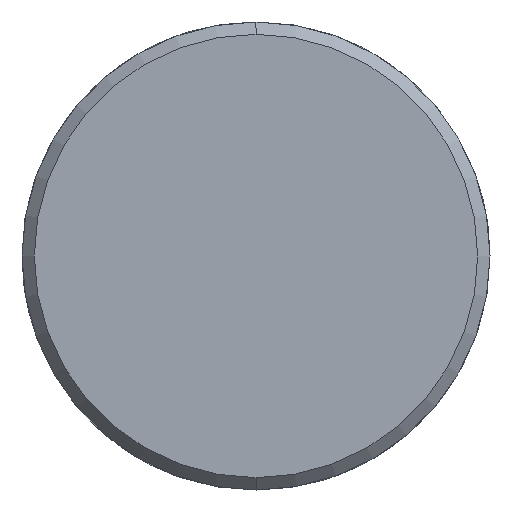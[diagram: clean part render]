
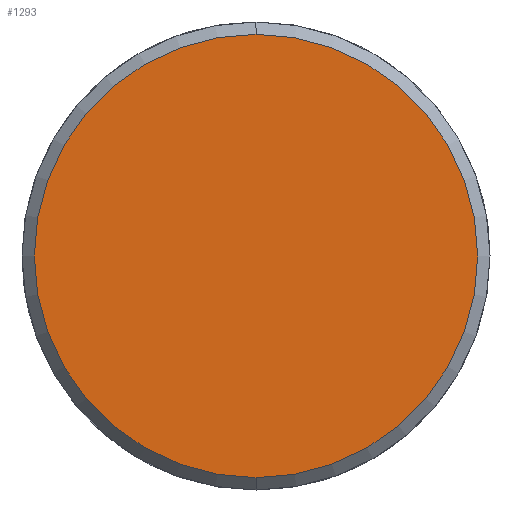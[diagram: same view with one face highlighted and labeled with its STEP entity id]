
A CAD part, left-side view. The second image highlights one B-rep face of the part: STEP entity #1293.
In plain terms, the highlighted planar face has unit normal (-1, 0, 0).
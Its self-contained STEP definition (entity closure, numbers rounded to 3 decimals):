
#1225=CARTESIAN_POINT('Vertex',(-7.,0.,-18.)) ;
#1228=CARTESIAN_POINT('Axis2P3D Location',(-7.,0.,0.)) ;
#1232=CARTESIAN_POINT('Vertex',(-7.,18.,0.)) ;
#1235=CARTESIAN_POINT('Axis2P3D Location',(-7.,0.,0.)) ;
#1239=CARTESIAN_POINT('Vertex',(-7.,0.,18.)) ;
#1261=CARTESIAN_POINT('Axis2P3D Location',(-7.,0.,0.)) ;
#1265=CARTESIAN_POINT('Vertex',(-7.,-18.,0.)) ;
#1268=CARTESIAN_POINT('Axis2P3D Location',(-7.,0.,0.)) ;
#1282=CARTESIAN_POINT('Axis2P3D Location',(-7.,0.,0.)) ;
#1229=DIRECTION('Axis2P3D Direction',(1.,0.,-0.)) ;
#1236=DIRECTION('Axis2P3D Direction',(1.,0.,-0.)) ;
#1262=DIRECTION('Axis2P3D Direction',(1.,0.,-0.)) ;
#1269=DIRECTION('Axis2P3D Direction',(1.,0.,-0.)) ;
#1283=DIRECTION('Axis2P3D Direction',(1.,0.,-0.)) ;
#1284=DIRECTION('Axis2P3D XDirection',(-0.,0.,-1.)) ;
#1230=AXIS2_PLACEMENT_3D('Circle Axis2P3D',#1228,#1229,$) ;
#1237=AXIS2_PLACEMENT_3D('Circle Axis2P3D',#1235,#1236,$) ;
#1263=AXIS2_PLACEMENT_3D('Circle Axis2P3D',#1261,#1262,$) ;
#1270=AXIS2_PLACEMENT_3D('Circle Axis2P3D',#1268,#1269,$) ;
#1285=AXIS2_PLACEMENT_3D('Plane Axis2P3D',#1282,#1283,#1284) ;
#1288=ORIENTED_EDGE('',*,*,#1234,.F.) ;
#1289=ORIENTED_EDGE('',*,*,#1272,.F.) ;
#1290=ORIENTED_EDGE('',*,*,#1267,.F.) ;
#1291=ORIENTED_EDGE('',*,*,#1241,.F.) ;
#1293=ADVANCED_FACE('351-25X76X140',(#1292),#1286,.F.) ;
#1231=CIRCLE('generated circle',#1230,18.) ;
#1238=CIRCLE('generated circle',#1237,18.) ;
#1264=CIRCLE('generated circle',#1263,18.) ;
#1271=CIRCLE('generated circle',#1270,18.) ;
#1234=EDGE_CURVE('',#1226,#1233,#1231,.T.) ;
#1241=EDGE_CURVE('',#1233,#1240,#1238,.T.) ;
#1267=EDGE_CURVE('',#1240,#1266,#1264,.T.) ;
#1272=EDGE_CURVE('',#1266,#1226,#1271,.T.) ;
#1287=EDGE_LOOP('',(#1288,#1289,#1290,#1291)) ;
#1292=FACE_OUTER_BOUND('',#1287,.T.) ;
#1286=PLANE('Plane',#1285) ;
#1226=VERTEX_POINT('',#1225) ;
#1233=VERTEX_POINT('',#1232) ;
#1240=VERTEX_POINT('',#1239) ;
#1266=VERTEX_POINT('',#1265) ;
